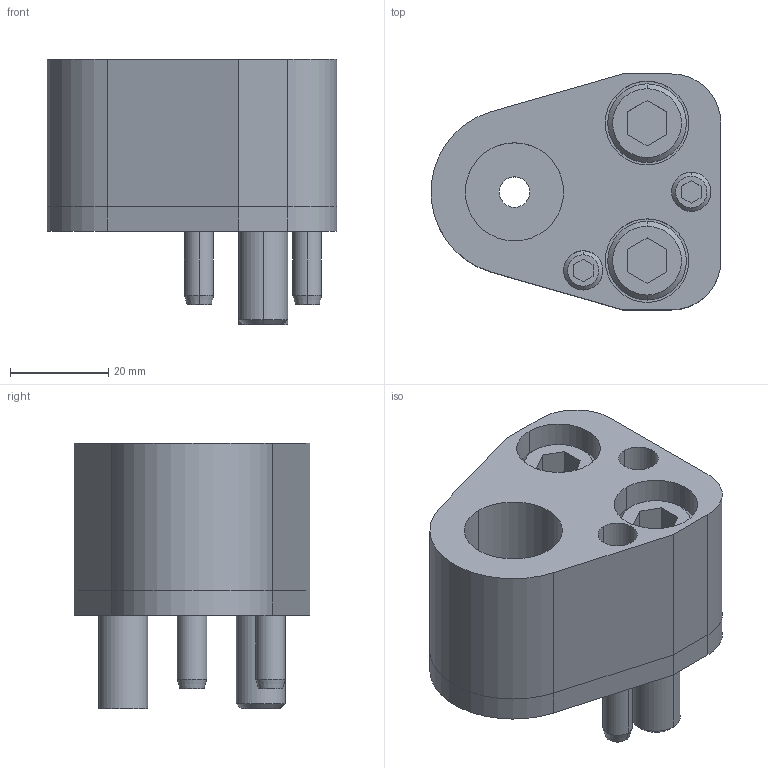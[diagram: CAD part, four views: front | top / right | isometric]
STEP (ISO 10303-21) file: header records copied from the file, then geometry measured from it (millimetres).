
FILE_DESCRIPTION(/* description */ (''),/* implementation_level */ '2;1');
FILE_NAME(/* name */ '3d_fp-ap20_02889_r00.stp',/* time_stamp */ '2011-01-10T14:15:36+09:00',/* author */ ('MISUMI'),/* organization */ (''),/* preprocessor_version */ 'ST-DEVELOPER v11',/* originating_system */ 'UGS - NX 5.0',/* authorisation */ '');
FILE_SCHEMA (('CONFIG_CONTROL_DESIGN'));
Length unit declared in the file: millimetre
Products named in the file (1): 3d_fp-ap20_02889_r00
Bounding box: 58.94 x 48 x 54 mm (x, y, z)
Volume: 67475.7 mm3; surface area: 26866.4 mm2
Topology: 8 solids, 8 shells, 153 faces, 342 edges, 220 vertices
Faces by surface type: plane 67, cylinder 62, cone 24
Entity records: 4424 total; most frequent: DIRECTION 794, CARTESIAN_POINT 764, ORIENTED_EDGE 684, EDGE_CURVE 342, AXIS2_PLACEMENT_3D 302, VERTEX_POINT 220, LINE 190, VECTOR 190
